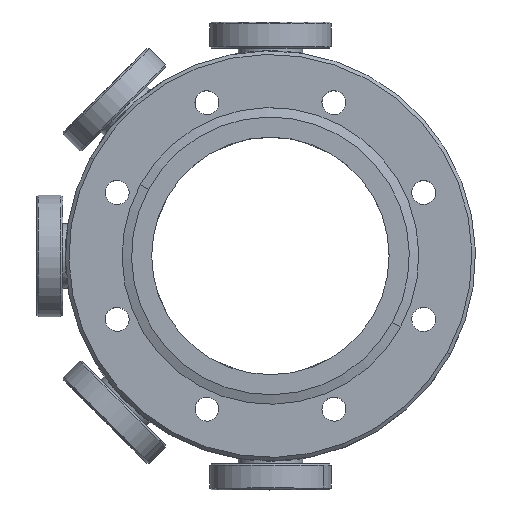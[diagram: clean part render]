
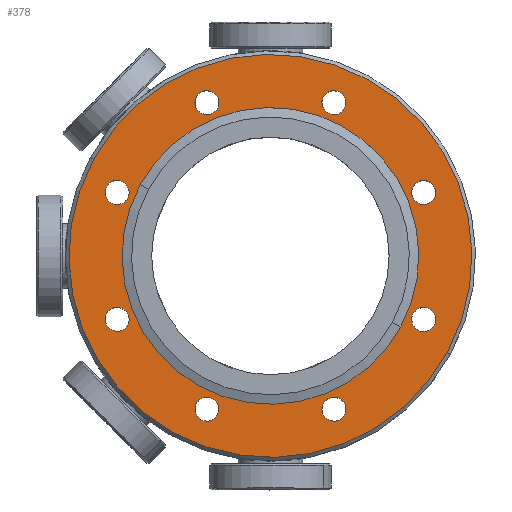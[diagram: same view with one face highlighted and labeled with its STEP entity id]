
A CAD part, top view. The second image highlights one B-rep face of the part: STEP entity #378.
In plain terms, the highlighted planar face has unit normal (0, 0, 1) as drawn and (1, 0, 0) by its records, which use the part's own axes.
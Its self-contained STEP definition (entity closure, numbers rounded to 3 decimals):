
#161=AXIS2_PLACEMENT_3D('Circle Axis2P3D',#159,#160,$) ;
#192=AXIS2_PLACEMENT_3D('Circle Axis2P3D',#190,#191,$) ;
#210=AXIS2_PLACEMENT_3D('Plane Axis2P3D',#207,#208,#209) ;
#218=AXIS2_PLACEMENT_3D('Circle Axis2P3D',#216,#217,$) ;
#227=AXIS2_PLACEMENT_3D('Circle Axis2P3D',#225,#226,$) ;
#236=AXIS2_PLACEMENT_3D('Circle Axis2P3D',#234,#235,$) ;
#245=AXIS2_PLACEMENT_3D('Circle Axis2P3D',#243,#244,$) ;
#254=AXIS2_PLACEMENT_3D('Circle Axis2P3D',#252,#253,$) ;
#263=AXIS2_PLACEMENT_3D('Circle Axis2P3D',#261,#262,$) ;
#272=AXIS2_PLACEMENT_3D('Circle Axis2P3D',#270,#271,$) ;
#281=AXIS2_PLACEMENT_3D('Circle Axis2P3D',#279,#280,$) ;
#290=AXIS2_PLACEMENT_3D('Circle Axis2P3D',#288,#289,$) ;
#299=AXIS2_PLACEMENT_3D('Circle Axis2P3D',#297,#298,$) ;
#308=AXIS2_PLACEMENT_3D('Circle Axis2P3D',#306,#307,$) ;
#317=AXIS2_PLACEMENT_3D('Circle Axis2P3D',#315,#316,$) ;
#326=AXIS2_PLACEMENT_3D('Circle Axis2P3D',#324,#325,$) ;
#335=AXIS2_PLACEMENT_3D('Circle Axis2P3D',#333,#334,$) ;
#344=AXIS2_PLACEMENT_3D('Circle Axis2P3D',#342,#343,$) ;
#353=AXIS2_PLACEMENT_3D('Circle Axis2P3D',#351,#352,$) ;
#362=AXIS2_PLACEMENT_3D('Circle Axis2P3D',#360,#361,$) ;
#371=AXIS2_PLACEMENT_3D('Circle Axis2P3D',#369,#370,$) ;
#156=CARTESIAN_POINT('Vertex',(0.,26.848,49.145)) ;
#159=CARTESIAN_POINT('Axis2P3D Location',(0.,0.,0.)) ;
#163=CARTESIAN_POINT('Vertex',(0.,-26.848,-49.145)) ;
#190=CARTESIAN_POINT('Axis2P3D Location',(0.,0.,0.)) ;
#207=CARTESIAN_POINT('Axis2P3D Location',(0.,0.,41.225)) ;
#216=CARTESIAN_POINT('Axis2P3D Location',(0.,42.591,17.642)) ;
#220=CARTESIAN_POINT('Vertex',(0.,39.674,19.235)) ;
#222=CARTESIAN_POINT('Vertex',(0.,45.507,16.048)) ;
#225=CARTESIAN_POINT('Axis2P3D Location',(0.,42.591,17.642)) ;
#234=CARTESIAN_POINT('Axis2P3D Location',(0.,0.,0.)) ;
#238=CARTESIAN_POINT('Vertex',(0.,-19.764,-36.178)) ;
#240=CARTESIAN_POINT('Vertex',(0.,19.764,36.178)) ;
#243=CARTESIAN_POINT('Axis2P3D Location',(0.,0.,0.)) ;
#252=CARTESIAN_POINT('Axis2P3D Location',(0.,42.591,-17.642)) ;
#256=CARTESIAN_POINT('Vertex',(0.,41.655,-14.453)) ;
#258=CARTESIAN_POINT('Vertex',(0.,43.527,-20.831)) ;
#261=CARTESIAN_POINT('Axis2P3D Location',(0.,42.591,-17.642)) ;
#270=CARTESIAN_POINT('Axis2P3D Location',(0.,17.642,-42.591)) ;
#274=CARTESIAN_POINT('Vertex',(0.,19.235,-39.674)) ;
#276=CARTESIAN_POINT('Vertex',(0.,16.048,-45.507)) ;
#279=CARTESIAN_POINT('Axis2P3D Location',(0.,17.642,-42.591)) ;
#288=CARTESIAN_POINT('Axis2P3D Location',(0.,-17.642,-42.591)) ;
#292=CARTESIAN_POINT('Vertex',(0.,-14.453,-41.655)) ;
#294=CARTESIAN_POINT('Vertex',(0.,-20.831,-43.527)) ;
#297=CARTESIAN_POINT('Axis2P3D Location',(0.,-17.642,-42.591)) ;
#306=CARTESIAN_POINT('Axis2P3D Location',(0.,-42.591,-17.642)) ;
#310=CARTESIAN_POINT('Vertex',(0.,-39.674,-19.235)) ;
#312=CARTESIAN_POINT('Vertex',(0.,-45.507,-16.048)) ;
#315=CARTESIAN_POINT('Axis2P3D Location',(0.,-42.591,-17.642)) ;
#324=CARTESIAN_POINT('Axis2P3D Location',(0.,-42.591,17.642)) ;
#328=CARTESIAN_POINT('Vertex',(0.,-41.655,14.453)) ;
#330=CARTESIAN_POINT('Vertex',(0.,-43.527,20.831)) ;
#333=CARTESIAN_POINT('Axis2P3D Location',(0.,-42.591,17.642)) ;
#342=CARTESIAN_POINT('Axis2P3D Location',(0.,-17.642,42.591)) ;
#346=CARTESIAN_POINT('Vertex',(0.,-19.235,39.674)) ;
#348=CARTESIAN_POINT('Vertex',(0.,-16.048,45.507)) ;
#351=CARTESIAN_POINT('Axis2P3D Location',(0.,-17.642,42.591)) ;
#360=CARTESIAN_POINT('Axis2P3D Location',(0.,17.642,42.591)) ;
#364=CARTESIAN_POINT('Vertex',(0.,14.453,41.655)) ;
#366=CARTESIAN_POINT('Vertex',(0.,20.831,43.527)) ;
#369=CARTESIAN_POINT('Axis2P3D Location',(0.,17.642,42.591)) ;
#160=DIRECTION('Axis2P3D Direction',(-1.,0.,0.)) ;
#191=DIRECTION('Axis2P3D Direction',(-1.,0.,0.)) ;
#208=DIRECTION('Axis2P3D Direction',(-1.,0.,0.)) ;
#209=DIRECTION('Axis2P3D XDirection',(0.,1.,0.)) ;
#217=DIRECTION('Axis2P3D Direction',(-1.,0.,0.)) ;
#226=DIRECTION('Axis2P3D Direction',(-1.,0.,0.)) ;
#235=DIRECTION('Axis2P3D Direction',(-1.,0.,0.)) ;
#244=DIRECTION('Axis2P3D Direction',(-1.,0.,0.)) ;
#253=DIRECTION('Axis2P3D Direction',(-1.,0.,0.)) ;
#262=DIRECTION('Axis2P3D Direction',(-1.,0.,0.)) ;
#271=DIRECTION('Axis2P3D Direction',(-1.,0.,0.)) ;
#280=DIRECTION('Axis2P3D Direction',(-1.,0.,0.)) ;
#289=DIRECTION('Axis2P3D Direction',(-1.,0.,0.)) ;
#298=DIRECTION('Axis2P3D Direction',(-1.,0.,0.)) ;
#307=DIRECTION('Axis2P3D Direction',(-1.,0.,0.)) ;
#316=DIRECTION('Axis2P3D Direction',(-1.,0.,0.)) ;
#325=DIRECTION('Axis2P3D Direction',(-1.,0.,0.)) ;
#334=DIRECTION('Axis2P3D Direction',(-1.,0.,0.)) ;
#343=DIRECTION('Axis2P3D Direction',(-1.,0.,0.)) ;
#352=DIRECTION('Axis2P3D Direction',(-1.,0.,0.)) ;
#361=DIRECTION('Axis2P3D Direction',(-1.,0.,0.)) ;
#370=DIRECTION('Axis2P3D Direction',(-1.,0.,0.)) ;
#213=ORIENTED_EDGE('',*,*,#194,.F.) ;
#214=ORIENTED_EDGE('',*,*,#165,.F.) ;
#231=ORIENTED_EDGE('',*,*,#224,.T.) ;
#232=ORIENTED_EDGE('',*,*,#229,.T.) ;
#249=ORIENTED_EDGE('',*,*,#242,.T.) ;
#250=ORIENTED_EDGE('',*,*,#247,.T.) ;
#267=ORIENTED_EDGE('',*,*,#260,.T.) ;
#268=ORIENTED_EDGE('',*,*,#265,.T.) ;
#285=ORIENTED_EDGE('',*,*,#278,.T.) ;
#286=ORIENTED_EDGE('',*,*,#283,.T.) ;
#303=ORIENTED_EDGE('',*,*,#296,.T.) ;
#304=ORIENTED_EDGE('',*,*,#301,.T.) ;
#321=ORIENTED_EDGE('',*,*,#314,.T.) ;
#322=ORIENTED_EDGE('',*,*,#319,.T.) ;
#339=ORIENTED_EDGE('',*,*,#332,.T.) ;
#340=ORIENTED_EDGE('',*,*,#337,.T.) ;
#357=ORIENTED_EDGE('',*,*,#350,.T.) ;
#358=ORIENTED_EDGE('',*,*,#355,.T.) ;
#375=ORIENTED_EDGE('',*,*,#368,.T.) ;
#376=ORIENTED_EDGE('',*,*,#373,.T.) ;
#233=FACE_BOUND('',#230,.T.) ;
#251=FACE_BOUND('',#248,.T.) ;
#269=FACE_BOUND('',#266,.T.) ;
#287=FACE_BOUND('',#284,.T.) ;
#305=FACE_BOUND('',#302,.T.) ;
#323=FACE_BOUND('',#320,.T.) ;
#341=FACE_BOUND('',#338,.T.) ;
#359=FACE_BOUND('',#356,.T.) ;
#377=FACE_BOUND('',#374,.T.) ;
#378=ADVANCED_FACE('Hauptk\X2\00F6\X0\rper',(#215,#233,#251,#269,#287,#305,#323,#341,#359,#377),#211,.F.) ;
#162=CIRCLE('generated circle',#161,56.) ;
#193=CIRCLE('generated circle',#192,56.) ;
#219=CIRCLE('generated circle',#218,3.324) ;
#228=CIRCLE('generated circle',#227,3.324) ;
#237=CIRCLE('generated circle',#236,41.225) ;
#246=CIRCLE('generated circle',#245,41.225) ;
#255=CIRCLE('generated circle',#254,3.324) ;
#264=CIRCLE('generated circle',#263,3.324) ;
#273=CIRCLE('generated circle',#272,3.324) ;
#282=CIRCLE('generated circle',#281,3.324) ;
#291=CIRCLE('generated circle',#290,3.324) ;
#300=CIRCLE('generated circle',#299,3.324) ;
#309=CIRCLE('generated circle',#308,3.324) ;
#318=CIRCLE('generated circle',#317,3.324) ;
#327=CIRCLE('generated circle',#326,3.324) ;
#336=CIRCLE('generated circle',#335,3.324) ;
#345=CIRCLE('generated circle',#344,3.324) ;
#354=CIRCLE('generated circle',#353,3.324) ;
#363=CIRCLE('generated circle',#362,3.324) ;
#372=CIRCLE('generated circle',#371,3.324) ;
#165=EDGE_CURVE('',#157,#164,#162,.T.) ;
#194=EDGE_CURVE('',#164,#157,#193,.T.) ;
#224=EDGE_CURVE('',#221,#223,#219,.T.) ;
#229=EDGE_CURVE('',#223,#221,#228,.T.) ;
#242=EDGE_CURVE('',#239,#241,#237,.T.) ;
#247=EDGE_CURVE('',#241,#239,#246,.T.) ;
#260=EDGE_CURVE('',#257,#259,#255,.T.) ;
#265=EDGE_CURVE('',#259,#257,#264,.T.) ;
#278=EDGE_CURVE('',#275,#277,#273,.T.) ;
#283=EDGE_CURVE('',#277,#275,#282,.T.) ;
#296=EDGE_CURVE('',#293,#295,#291,.T.) ;
#301=EDGE_CURVE('',#295,#293,#300,.T.) ;
#314=EDGE_CURVE('',#311,#313,#309,.T.) ;
#319=EDGE_CURVE('',#313,#311,#318,.T.) ;
#332=EDGE_CURVE('',#329,#331,#327,.T.) ;
#337=EDGE_CURVE('',#331,#329,#336,.T.) ;
#350=EDGE_CURVE('',#347,#349,#345,.T.) ;
#355=EDGE_CURVE('',#349,#347,#354,.T.) ;
#368=EDGE_CURVE('',#365,#367,#363,.T.) ;
#373=EDGE_CURVE('',#367,#365,#372,.T.) ;
#212=EDGE_LOOP('',(#213,#214)) ;
#230=EDGE_LOOP('',(#231,#232)) ;
#248=EDGE_LOOP('',(#249,#250)) ;
#266=EDGE_LOOP('',(#267,#268)) ;
#284=EDGE_LOOP('',(#285,#286)) ;
#302=EDGE_LOOP('',(#303,#304)) ;
#320=EDGE_LOOP('',(#321,#322)) ;
#338=EDGE_LOOP('',(#339,#340)) ;
#356=EDGE_LOOP('',(#357,#358)) ;
#374=EDGE_LOOP('',(#375,#376)) ;
#215=FACE_OUTER_BOUND('',#212,.T.) ;
#211=PLANE('',#210) ;
#157=VERTEX_POINT('',#156) ;
#164=VERTEX_POINT('',#163) ;
#221=VERTEX_POINT('',#220) ;
#223=VERTEX_POINT('',#222) ;
#239=VERTEX_POINT('',#238) ;
#241=VERTEX_POINT('',#240) ;
#257=VERTEX_POINT('',#256) ;
#259=VERTEX_POINT('',#258) ;
#275=VERTEX_POINT('',#274) ;
#277=VERTEX_POINT('',#276) ;
#293=VERTEX_POINT('',#292) ;
#295=VERTEX_POINT('',#294) ;
#311=VERTEX_POINT('',#310) ;
#313=VERTEX_POINT('',#312) ;
#329=VERTEX_POINT('',#328) ;
#331=VERTEX_POINT('',#330) ;
#347=VERTEX_POINT('',#346) ;
#349=VERTEX_POINT('',#348) ;
#365=VERTEX_POINT('',#364) ;
#367=VERTEX_POINT('',#366) ;
